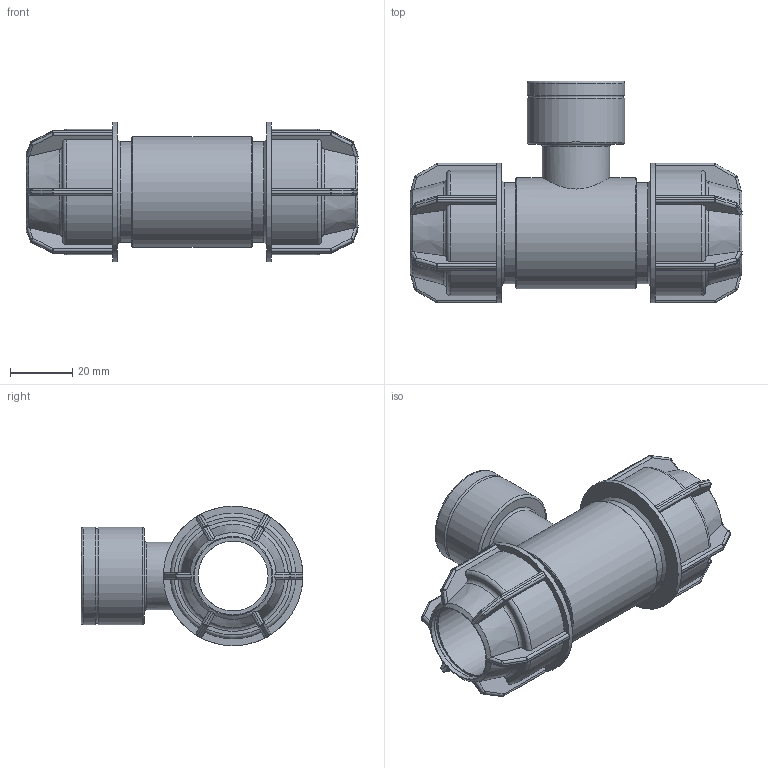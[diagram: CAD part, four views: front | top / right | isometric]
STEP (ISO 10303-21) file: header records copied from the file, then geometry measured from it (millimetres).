
FILE_DESCRIPTION(/* description */ ('PLASSON IRRIFIT TEE FEMALE ADAPTOR 25-3/4"-25'),/* implementation_level */ '2;1');
FILE_NAME(/* name */ 'C:\Dropbox\KIMPROJECTS-Inventor\99-16-3568-Processing\Silver+MF ISRAEL\041407\041407025007.ipt.stp',/* time_stamp */ '2018-04-09T12:59:53+03:00',/* author */ ('KIM'),/* organization */ (''),/* preprocessor_version */ 'ST-DEVELOPER v15.6',/* originating_system */ 'Autodesk Inventor 2015',/* authorisation */ '');
FILE_SCHEMA (('AUTOMOTIVE_DESIGN { 1 0 10303 214 3 1 1 }'));
Length unit declared in the file: millimetre
Products named in the file (1): 041407025007
Bounding box: 107 x 71.5 x 45 mm (x, y, z)
Volume: 71969.8 mm3; surface area: 31363.3 mm2
Topology: 1 solids, 1 shells, 418 faces, 987 edges, 567 vertices
Faces by surface type: plane 197, cylinder 123, sphere 48, torus 32, cone 18
Full cylindrical faces by diameter (mm): 16.882 x1, 21.705 x1, 22.5 x1, 24.117 x1, 25 x4, 31.352 x2, 32.5 x2, 35.75 x1, 45 x2
Entity records: 12148 total; most frequent: CARTESIAN_POINT 3185, DIRECTION 1888, ORIENTED_EDGE 1830, EDGE_CURVE 915, AXIS2_PLACEMENT_3D 764, VERTEX_POINT 543, EDGE_LOOP 458, FACE_OUTER_BOUND 414
